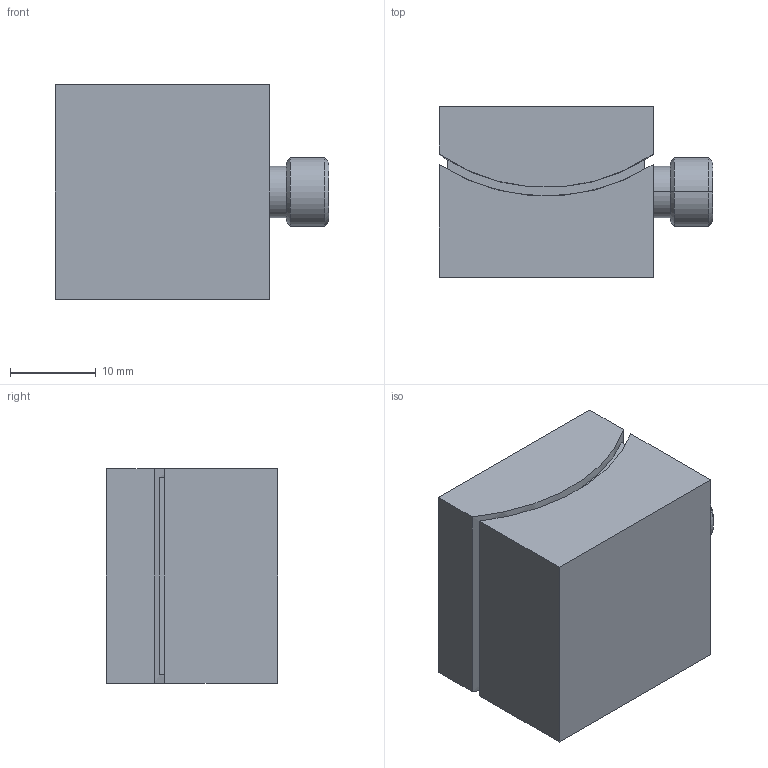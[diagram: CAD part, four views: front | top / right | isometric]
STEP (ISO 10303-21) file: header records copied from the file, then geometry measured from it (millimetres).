
FILE_DESCRIPTION (( 'STEP AP203' ), '1' );
FILE_NAME ('PT-SD304.STEP', '2016-11-17T07:51:09', ( '微软用户' ), ( '微软中国' ), 'SwSTEP 2.0', 'SolidWorks 2016', '' );
FILE_SCHEMA (( 'CONFIG_CONTROL_DESIGN' ));
Length unit declared in the file: millimetre
Products named in the file (1): PT-SD304
Bounding box: 32 x 20 x 25 mm (x, y, z)
Volume: 12694.4 mm3; surface area: 3645.5 mm2
Topology: 1 solids, 1 shells, 26 faces, 56 edges, 36 vertices
Faces by surface type: plane 16, cylinder 6, cone 4
Entity records: 785 total; most frequent: DIRECTION 130, CARTESIAN_POINT 119, ORIENTED_EDGE 112, EDGE_CURVE 56, AXIS2_PLACEMENT_3D 47, VERTEX_POINT 36, LINE 36, VECTOR 36
